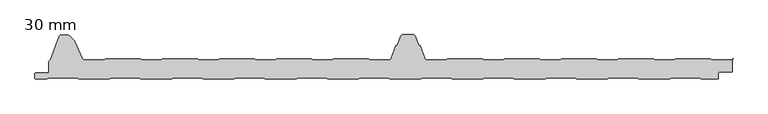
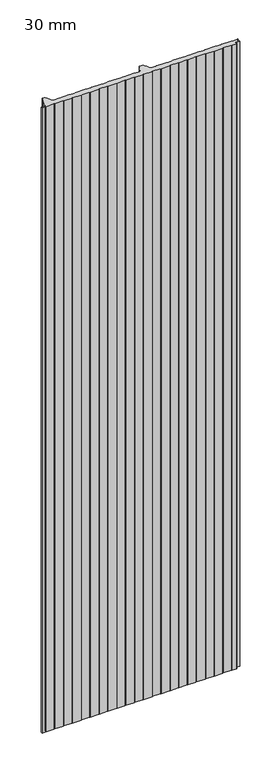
"""IFC4 building model written with IfcOpenShell, lengths in millimetres: plate geometry, HIANSA PANEL - H20.F01.004-PANELES DE CUBIERTA SIN TAPAJUNTA - EASY CUB 3GR - Panel de Muro Cortina : 30 mm."""

from ifc_helpers import new_model, si_unit, point, frame, frame_2d, origin, place, context, project, spatial, polyline, circle_curve, trimmed, segment, composite_curve, outline, extrude, source, transform, mapped, element, save


def plate_30_mm_ab91f54a(model_context):
    return source(origin(), model_context, "Body", "SweptSolid", [
        extrude(outline(composite_curve([segment(polyline([(25.4632456, -486.0046627), (9.8289851, -486.0046627)]), True, "CONTINUOUS"), segment(trimmed(circle_curve(frame_2d((9.7640482, -487.0014074)), 0.9988578), [point((9.8289851, -486.0046627))], [point((8.7651905, -487.0014074))], True, "CARTESIAN"), True, "CONTINUOUS"), segment(polyline([(8.7651905, -487.0014074), (8.7651905, -505.4968734)]), True, "CONTINUOUS"), segment(trimmed(circle_curve(frame_2d((8.2649415, -505.4998556)), 0.5002578), [point((8.7651905, -505.4968734))], [point((8.2649415, -506.0001134))], False, "CARTESIAN"), True, "CONTINUOUS"), segment(polyline([(8.2649415, -506.0001134), (1.0000206, -506.0001134)]), True, "CONTINUOUS"), segment(trimmed(circle_curve(frame_2d((1.0000206, -505.5000516)), 0.5000618), [point((1.0000206, -506.0001134))], [point((0.4999588, -505.5000516))], False, "CARTESIAN"), True, "CONTINUOUS"), segment(polyline([(0.4999588, -505.5000516), (0.4999588, -488.3412625), (1.5, -485.341139), (1.5, -445.1789848), (0.4999588, -442.1788613), (0.4999588, -397.341139), (1.4999588, -394.341139), (1.4999588, -354.1788613), (0.4999588, -351.1788613), (0.4999588, -306.341139), (1.4999588, -303.341139), (1.4999588, -263.1788613), (0.4999588, -260.1788613), (0.4999588, -215.341139), (1.4999588, -212.341139), (1.4999588, -172.1788613), (0.4999588, -169.1788613), (0.4999588, -124.341139), (1.4999588, -121.341139), (1.4999588, -81.1788613), (0.4999588, -78.1788613), (0.4999588, -33.341139), (1.4999588, -30.341139), (1.4999588, 9.8211387), (0.4999588, 12.8211387), (0.4999588, 57.658861), (1.4999588, 60.658861), (1.4999588, 100.8211387), (0.4999588, 103.8211387), (0.4999588, 148.658861), (1.4999588, 151.658861), (1.4999588, 191.8211387), (0.4999588, 194.8211387), (0.4999588, 239.658861), (1.4999588, 242.658861), (1.4999588, 282.8211387), (0.4999588, 285.8211387), (0.4999588, 330.658861), (1.4999588, 333.658861), (1.4999588, 373.8211387), (0.4999588, 376.8211387), (0.4999588, 421.658861), (1.4999588, 424.658861), (1.4999588, 464.8211387), (0.4999588, 467.8211387), (0.4999588, 492.4998866)]), True, "CONTINUOUS"), segment(trimmed(circle_curve(frame_2d((0.9999588, 492.4998866)), 0.5), [point((0.4999588, 492.4998866))], [point((0.9999588, 492.9998866))], False, "CARTESIAN"), True, "CONTINUOUS"), segment(polyline([(0.9999588, 492.9998866), (9.1271035, 492.9998866)]), True, "CONTINUOUS"), segment(trimmed(circle_curve(frame_2d((9.1271035, 493.9998866)), 1.0), [point((9.1271035, 492.9998866))], [point((10.1271035, 493.9998866))], True, "CARTESIAN"), True, "CONTINUOUS"), segment(polyline([(10.1271035, 493.9998866), (10.1271035, 512.4968315)]), True, "CONTINUOUS"), segment(trimmed(circle_curve(frame_2d((10.6270942, 512.4998866)), 0.5), [point((10.1271035, 512.4968315))], [point((10.6270689, 512.9998866))], False, "CARTESIAN"), True, "CONTINUOUS"), segment(polyline([(10.6270689, 512.9998866), (26.8762916, 513.0032453), (30.1357481, 514.4544488)]), True, "CONTINUOUS"), segment(trimmed(circle_curve(frame_2d((31.6, 511.1656852)), 3.6), [point((30.1357481, 514.4544488))], [point((28.0, 511.1656852))], True, "CARTESIAN"), True, "CONTINUOUS"), segment(polyline([(28.0, 511.1656852), (28.0, 484.1472941)]), True, "CONTINUOUS"), segment(trimmed(circle_curve(frame_2d((30.6, 484.1472941)), 2.6), [point((28.0, 484.1472941))], [point((28.5498213, 482.5483047))], True, "CARTESIAN"), True, "CONTINUOUS"), segment(polyline([(28.5498213, 482.5483047), (29.1783324, 481.8833)]), True, "CONTINUOUS"), segment(trimmed(circle_curve(frame_2d((28.1, 480.9904398)), 1.4), [point((29.1783324, 481.8833))], [point((29.5, 480.9904398))], False, "CARTESIAN"), True, "CONTINUOUS"), segment(polyline([(29.5, 480.9904398), (29.5, 430.9892064)]), True, "CONTINUOUS"), segment(trimmed(circle_curve(frame_2d((28.1, 430.9892064)), 1.4), [point((29.5, 430.9892064))], [point((29.1783324, 430.0963463))], False, "CARTESIAN"), True, "CONTINUOUS"), segment(polyline([(29.1783324, 430.0963463), (28.5498213, 429.4313416)]), True, "CONTINUOUS"), segment(trimmed(circle_curve(frame_2d((30.6, 427.8323522)), 2.6), [point((28.5498213, 429.4313416))], [point((28.0, 427.8323522))], True, "CARTESIAN"), True, "CONTINUOUS"), segment(polyline([(28.0, 427.8323522), (28.0, 400.8139607)]), True, "CONTINUOUS"), segment(trimmed(circle_curve(frame_2d((30.6, 400.8139607)), 2.6), [point((28.0, 400.8139607))], [point((28.5498213, 399.2149713))], True, "CARTESIAN"), True, "CONTINUOUS"), segment(polyline([(28.5498213, 399.2149713), (29.1783324, 398.5499666)]), True, "CONTINUOUS"), segment(trimmed(circle_curve(frame_2d((28.1, 397.6571065)), 1.4), [point((29.1783324, 398.5499666))], [point((29.5, 397.6571065))], False, "CARTESIAN"), True, "CONTINUOUS"), segment(polyline([(29.5, 397.6571065), (29.5, 347.6558731)]), True, "CONTINUOUS"), segment(trimmed(circle_curve(frame_2d((28.1, 347.6558731)), 1.4), [point((29.5, 347.6558731))], [point((29.1783324, 346.763013))], False, "CARTESIAN"), True, "CONTINUOUS"), segment(polyline([(29.1783324, 346.763013), (28.5498213, 346.0980083)]), True, "CONTINUOUS"), segment(trimmed(circle_curve(frame_2d((30.6, 344.4990188)), 2.6), [point((28.5498213, 346.0980083))], [point((28.0, 344.4990188))], True, "CARTESIAN"), True, "CONTINUOUS"), segment(polyline([(28.0, 344.4990188), (28.0, 317.4806274)]), True, "CONTINUOUS"), segment(trimmed(circle_curve(frame_2d((30.6, 317.4806274)), 2.6), [point((28.0, 317.4806274))], [point((28.5498213, 315.881638))], True, "CARTESIAN"), True, "CONTINUOUS"), segment(polyline([(28.5498213, 315.881638), (29.1783324, 315.2166333)]), True, "CONTINUOUS"), segment(trimmed(circle_curve(frame_2d((28.1, 314.3237732)), 1.4), [point((29.1783324, 315.2166333))], [point((29.5, 314.3237732))], False, "CARTESIAN"), True, "CONTINUOUS"), segment(polyline([(29.5, 314.3237732), (29.5, 264.3225398)]), True, "CONTINUOUS"), segment(trimmed(circle_curve(frame_2d((28.1, 264.3225398)), 1.4), [point((29.5, 264.3225398))], [point((29.1783324, 263.4296796))], False, "CARTESIAN"), True, "CONTINUOUS"), segment(polyline([(29.1783324, 263.4296796), (28.5498213, 262.7646749)]), True, "CONTINUOUS"), segment(trimmed(circle_curve(frame_2d((30.6, 261.1656855)), 2.6), [point((28.5498213, 262.7646749))], [point((28.0, 261.1656855))], True, "CARTESIAN"), True, "CONTINUOUS"), segment(polyline([(28.0, 261.1656855), (28.0, 234.1472941)]), True, "CONTINUOUS"), segment(trimmed(circle_curve(frame_2d((30.6, 234.1472941)), 2.6), [point((28.0, 234.1472941))], [point((28.5498213, 232.5483047))], True, "CARTESIAN"), True, "CONTINUOUS"), segment(polyline([(28.5498213, 232.5483047), (29.1783324, 231.8833)]), True, "CONTINUOUS"), segment(trimmed(circle_curve(frame_2d((28.1, 230.9904398)), 1.4), [point((29.1783324, 231.8833))], [point((29.5, 230.9904398))], False, "CARTESIAN"), True, "CONTINUOUS"), segment(polyline([(29.5, 230.9904398), (29.5, 180.9892064)]), True, "CONTINUOUS"), segment(trimmed(circle_curve(frame_2d((28.1, 180.9892064)), 1.4), [point((29.5, 180.9892064))], [point((29.1783324, 180.0963463))], False, "CARTESIAN"), True, "CONTINUOUS"), segment(polyline([(29.1783324, 180.0963463), (28.5498213, 179.4313416)]), True, "CONTINUOUS"), segment(trimmed(circle_curve(frame_2d((30.6, 177.8323522)), 2.6), [point((28.5498213, 179.4313416))], [point((28.0, 177.8323522))], True, "CARTESIAN"), True, "CONTINUOUS"), segment(polyline([(28.0, 177.8323522), (28.0, 150.8139607)]), True, "CONTINUOUS"), segment(trimmed(circle_curve(frame_2d((30.6, 150.8139607)), 2.6), [point((28.0, 150.8139607))], [point((28.5498213, 149.2149713))], True, "CARTESIAN"), True, "CONTINUOUS"), segment(polyline([(28.5498213, 149.2149713), (29.1783324, 148.5499666)]), True, "CONTINUOUS"), segment(trimmed(circle_curve(frame_2d((28.1, 147.6571065)), 1.4), [point((29.1783324, 148.5499666))], [point((29.5, 147.6571065))], False, "CARTESIAN"), True, "CONTINUOUS"), segment(polyline([(29.5, 147.6571065), (29.5, 97.6558731)]), True, "CONTINUOUS"), segment(trimmed(circle_curve(frame_2d((28.1, 97.6558731)), 1.4), [point((29.5, 97.6558731))], [point((29.1783324, 96.763013))], False, "CARTESIAN"), True, "CONTINUOUS"), segment(polyline([(29.1783324, 96.763013), (28.5498213, 96.0980083)]), True, "CONTINUOUS"), segment(trimmed(circle_curve(frame_2d((30.6, 94.4990188)), 2.6), [point((28.5498213, 96.0980083))], [point((28.0, 94.4990188))], True, "CARTESIAN"), True, "CONTINUOUS"), segment(polyline([(28.0, 94.4990188), (28.0, 67.4806278)]), True, "CONTINUOUS"), segment(trimmed(circle_curve(frame_2d((31.6, 67.4806278)), 3.6), [point((28.0, 67.4806278))], [point((30.3687274, 64.0977344))], True, "CARTESIAN"), True, "CONTINUOUS"), segment(polyline([(30.3687274, 64.0977344), (48.8269071, 57.3795056)]), True, "CONTINUOUS"), segment(trimmed(circle_curve(frame_2d((48.4848869, 56.439813)), 1.0), [point((48.8269071, 57.3795056))], [point((49.4245795, 56.7818331))], False, "CARTESIAN"), True, "CONTINUOUS"), segment(polyline([(49.4245795, 56.7818331), (50.0964918, 54.9357693)]), True, "CONTINUOUS"), segment(trimmed(circle_curve(frame_2d((51.6, 55.4830015)), 1.6), [point((50.0964918, 54.9357693))], [point((51.0527678, 53.9794933))], True, "CARTESIAN"), True, "CONTINUOUS"), segment(polyline([(51.0527678, 53.9794933), (63.0260604, 49.6215712)]), True, "CONTINUOUS"), segment(trimmed(circle_curve(frame_2d((62.0, 46.8024933)), 3.0), [point((63.0260604, 49.6215712))], [point((65.0, 46.8024933))], False, "CARTESIAN"), True, "CONTINUOUS"), segment(polyline([(65.0, 46.8024933), (65.0, 31.8438196)]), True, "CONTINUOUS"), segment(trimmed(circle_curve(frame_2d((62.0, 31.8438196)), 3.0), [point((65.0, 31.8438196))], [point((63.0260604, 29.0247417))], False, "CARTESIAN"), True, "CONTINUOUS"), segment(polyline([(63.0260604, 29.0247417), (51.0527678, 24.6668196)]), True, "CONTINUOUS"), segment(trimmed(circle_curve(frame_2d((51.6, 23.1633114)), 1.6), [point((51.0527678, 24.6668196))], [point((50.0964918, 23.7105436))], True, "CARTESIAN"), True, "CONTINUOUS"), segment(polyline([(50.0964918, 23.7105436), (49.4245795, 21.8644798)]), True, "CONTINUOUS"), segment(trimmed(circle_curve(frame_2d((48.4848869, 22.2064999)), 1.0), [point((49.4245795, 21.8644798))], [point((48.8269071, 21.2668073))], False, "CARTESIAN"), True, "CONTINUOUS"), segment(polyline([(48.8269071, 21.2668073), (30.3687274, 14.5485786)]), True, "CONTINUOUS"), segment(trimmed(circle_curve(frame_2d((31.6, 11.1656852)), 3.6), [point((30.3687274, 14.5485786))], [point((28.0, 11.1656852))], True, "CARTESIAN"), True, "CONTINUOUS"), segment(polyline([(28.0, 11.1656852), (28.0, -15.8527059)]), True, "CONTINUOUS"), segment(trimmed(circle_curve(frame_2d((30.6, -15.8527059)), 2.6), [point((28.0, -15.8527059))], [point((28.5498213, -17.4516953))], True, "CARTESIAN"), True, "CONTINUOUS"), segment(polyline([(28.5498213, -17.4516953), (29.1783324, -18.1167)]), True, "CONTINUOUS"), segment(trimmed(circle_curve(frame_2d((28.1, -19.0095602)), 1.4), [point((29.1783324, -18.1167))], [point((29.5, -19.0095602))], False, "CARTESIAN"), True, "CONTINUOUS"), segment(polyline([(29.5, -19.0095602), (29.5, -69.0107936)]), True, "CONTINUOUS"), segment(trimmed(circle_curve(frame_2d((28.1, -69.0107936)), 1.4), [point((29.5, -69.0107936))], [point((29.1783324, -69.9036537))], False, "CARTESIAN"), True, "CONTINUOUS"), segment(polyline([(29.1783324, -69.9036537), (28.5498213, -70.5686584)]), True, "CONTINUOUS"), segment(trimmed(circle_curve(frame_2d((30.6, -72.1676478)), 2.6), [point((28.5498213, -70.5686584))], [point((28.0, -72.1676478))], True, "CARTESIAN"), True, "CONTINUOUS"), segment(polyline([(28.0, -72.1676478), (28.0, -99.1860393)]), True, "CONTINUOUS"), segment(trimmed(circle_curve(frame_2d((30.6, -99.1860393)), 2.6), [point((28.0, -99.1860393))], [point((28.5498213, -100.7850287))], True, "CARTESIAN"), True, "CONTINUOUS"), segment(polyline([(28.5498213, -100.7850287), (29.1783324, -101.4500334)]), True, "CONTINUOUS"), segment(trimmed(circle_curve(frame_2d((28.1, -102.3428935)), 1.4), [point((29.1783324, -101.4500334))], [point((29.5, -102.3428935))], False, "CARTESIAN"), True, "CONTINUOUS"), segment(polyline([(29.5, -102.3428935), (29.5, -152.3441269)]), True, "CONTINUOUS"), segment(trimmed(circle_curve(frame_2d((28.1, -152.3441269)), 1.4), [point((29.5, -152.3441269))], [point((29.1783324, -153.236987))], False, "CARTESIAN"), True, "CONTINUOUS"), segment(polyline([(29.1783324, -153.236987), (28.5498213, -153.9019917)]), True, "CONTINUOUS"), segment(trimmed(circle_curve(frame_2d((30.6, -155.5009812)), 2.6), [point((28.5498213, -153.9019917))], [point((28.0, -155.5009812))], True, "CARTESIAN"), True, "CONTINUOUS"), segment(polyline([(28.0, -155.5009812), (28.0, -182.5193726)]), True, "CONTINUOUS"), segment(trimmed(circle_curve(frame_2d((30.6, -182.5193726)), 2.6), [point((28.0, -182.5193726))], [point((28.5498213, -184.118362))], True, "CARTESIAN"), True, "CONTINUOUS"), segment(polyline([(28.5498213, -184.118362), (29.1783324, -184.7833667)]), True, "CONTINUOUS"), segment(trimmed(circle_curve(frame_2d((28.1, -185.6762268)), 1.4), [point((29.1783324, -184.7833667))], [point((29.5, -185.6762268))], False, "CARTESIAN"), True, "CONTINUOUS"), segment(polyline([(29.5, -185.6762268), (29.5, -235.6774602)]), True, "CONTINUOUS"), segment(trimmed(circle_curve(frame_2d((28.1, -235.6774602)), 1.4), [point((29.5, -235.6774602))], [point((29.1783324, -236.5703204))], False, "CARTESIAN"), True, "CONTINUOUS"), segment(polyline([(29.1783324, -236.5703204), (28.5498213, -237.2353251)]), True, "CONTINUOUS"), segment(trimmed(circle_curve(frame_2d((30.6, -238.8343145)), 2.6), [point((28.5498213, -237.2353251))], [point((28.0, -238.8343145))], True, "CARTESIAN"), True, "CONTINUOUS"), segment(polyline([(28.0, -238.8343145), (28.0, -265.8527059)]), True, "CONTINUOUS"), segment(trimmed(circle_curve(frame_2d((30.6, -265.8527059)), 2.6), [point((28.0, -265.8527059))], [point((28.5498213, -267.4516953))], True, "CARTESIAN"), True, "CONTINUOUS"), segment(polyline([(28.5498213, -267.4516953), (29.1783324, -268.1167)]), True, "CONTINUOUS"), segment(trimmed(circle_curve(frame_2d((28.1, -269.0095602)), 1.4), [point((29.1783324, -268.1167))], [point((29.5, -269.0095602))], False, "CARTESIAN"), True, "CONTINUOUS"), segment(polyline([(29.5, -269.0095602), (29.5, -319.0107936)]), True, "CONTINUOUS"), segment(trimmed(circle_curve(frame_2d((28.1, -319.0107936)), 1.4), [point((29.5, -319.0107936))], [point((29.1783324, -319.9036537))], False, "CARTESIAN"), True, "CONTINUOUS"), segment(polyline([(29.1783324, -319.9036537), (28.5498213, -320.5686584)]), True, "CONTINUOUS"), segment(trimmed(circle_curve(frame_2d((30.6, -322.1676478)), 2.6), [point((28.5498213, -320.5686584))], [point((28.0, -322.1676478))], True, "CARTESIAN"), True, "CONTINUOUS"), segment(polyline([(28.0, -322.1676478), (28.0, -349.1860393)]), True, "CONTINUOUS"), segment(trimmed(circle_curve(frame_2d((30.6, -349.1860393)), 2.6), [point((28.0, -349.1860393))], [point((28.5498213, -350.7850287))], True, "CARTESIAN"), True, "CONTINUOUS"), segment(polyline([(28.5498213, -350.7850287), (29.1783324, -351.4500334)]), True, "CONTINUOUS"), segment(trimmed(circle_curve(frame_2d((28.1, -352.3428935)), 1.4), [point((29.1783324, -351.4500334))], [point((29.5, -352.3428935))], False, "CARTESIAN"), True, "CONTINUOUS"), segment(polyline([(29.5, -352.3428935), (29.5, -402.3441269)]), True, "CONTINUOUS"), segment(trimmed(circle_curve(frame_2d((28.1, -402.3441269)), 1.4), [point((29.5, -402.3441269))], [point((29.1783324, -403.236987))], False, "CARTESIAN"), True, "CONTINUOUS"), segment(polyline([(29.1783324, -403.236987), (28.5498213, -403.9019917)]), True, "CONTINUOUS"), segment(trimmed(circle_curve(frame_2d((30.6, -405.5009812)), 2.6), [point((28.5498213, -403.9019917))], [point((28.0, -405.5009812))], True, "CARTESIAN"), True, "CONTINUOUS"), segment(polyline([(28.0, -405.5009812), (28.0, -433.365894)]), True, "CONTINUOUS"), segment(trimmed(circle_curve(frame_2d((31.6, -433.365894)), 3.6), [point((28.0, -433.365894))], [point((30.1684119, -436.669007))], True, "CARTESIAN"), True, "CONTINUOUS"), segment(polyline([(30.1684119, -436.669007), (55.0629379, -447.4584377)]), True, "CONTINUOUS"), segment(trimmed(circle_curve(frame_2d((53.313219, -451.4955758)), 4.4), [point((55.0629379, -447.4584377))], [point((56.4244889, -448.3843059))], False, "CARTESIAN"), True, "CONTINUOUS"), segment(polyline([(56.4244889, -448.3843059), (63.1112698, -455.0710869)]), True, "CONTINUOUS"), segment(trimmed(circle_curve(frame_2d((60.0, -458.1823567)), 4.4), [point((63.1112698, -455.0710869))], [point((64.4, -458.1823567))], False, "CARTESIAN"), True, "CONTINUOUS"), segment(polyline([(64.4, -458.1823567), (64.4, -468.1671247)]), True, "CONTINUOUS"), segment(trimmed(circle_curve(frame_2d((62.0, -468.1671247)), 2.4), [point((64.4, -468.1671247))], [point((62.8208483, -470.422387))], False, "CARTESIAN"), True, "CONTINUOUS"), segment(polyline([(62.8208483, -470.422387), (27.4234527, -483.3059854), (26.894297, -484.137089), (25.4632456, -486.0046627)]), True, "CONTINUOUS")], self_intersect=False)), frame((0.0, 0.0, 3390.8509027), z_axis=(0.0, 0.0, -1.0), x_axis=(0.0, 1.0, 0.0)), (0.0, 0.0, 1.0), 3390.8509027),
    ])


if __name__ == "__main__":
    model = new_model("IFC4")
    model_context = context("Model", 3, world=origin())
    ifc_project = project(units=[si_unit("LENGTHUNIT", "METRE", prefix="MILLI")], contexts=[model_context])
    site = spatial("IfcSite", under=ifc_project)
    building = spatial("IfcBuilding", under=site)
    placement = place(None, origin())
    plate_30_mm_shape = plate_30_mm_ab91f54a(model_context)
    element("IfcPlate", 1, ObjectType="HIANSA PANEL - H20.F01.004-PANELES DE CUBIERTA SIN TAPAJUNTA - EASY CUB 3GR - Panel de Muro Cortina : 30 mm", at=placement, inside=building, context=model_context, shape_type="MappedRepresentation", body=[
        mapped(plate_30_mm_shape, transform((0.0, 0.0, 0.0), x_axis=(1.0, 0.0, 0.0), y_axis=(0.0, 1.0, 0.0), z_axis=(0.0, 0.0, 1.0))),
    ])
    save(model, "model.ifc")
